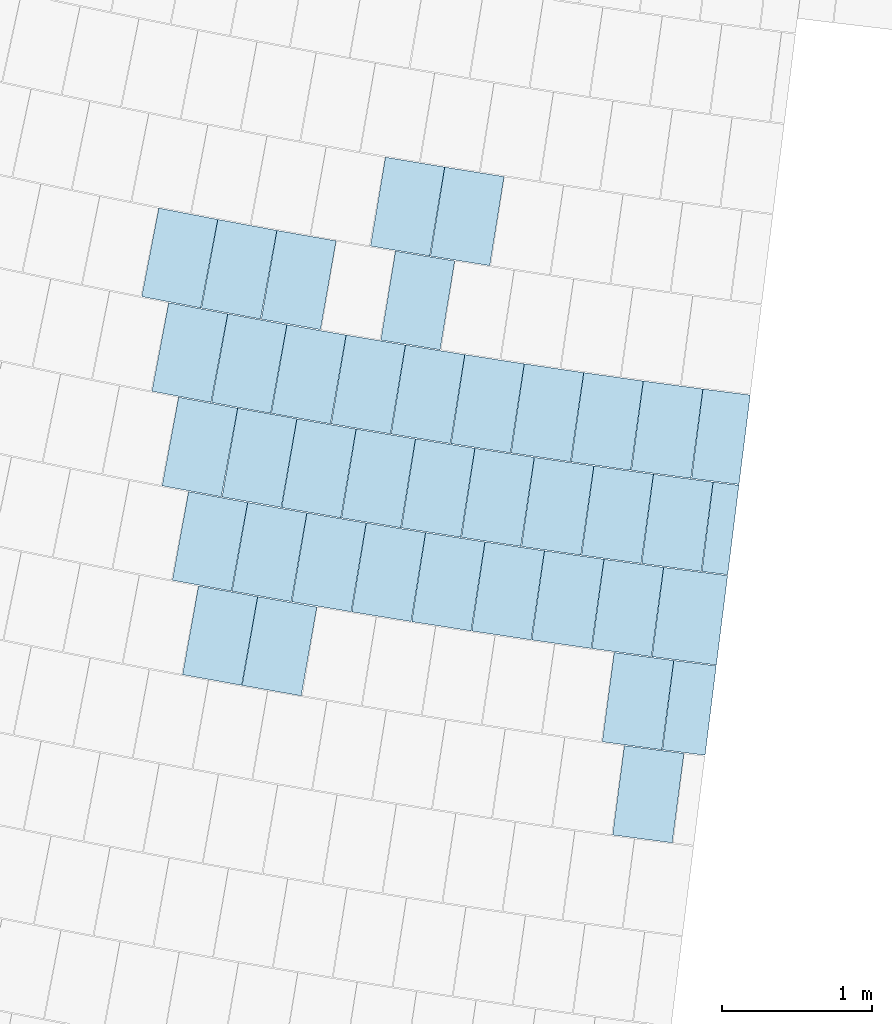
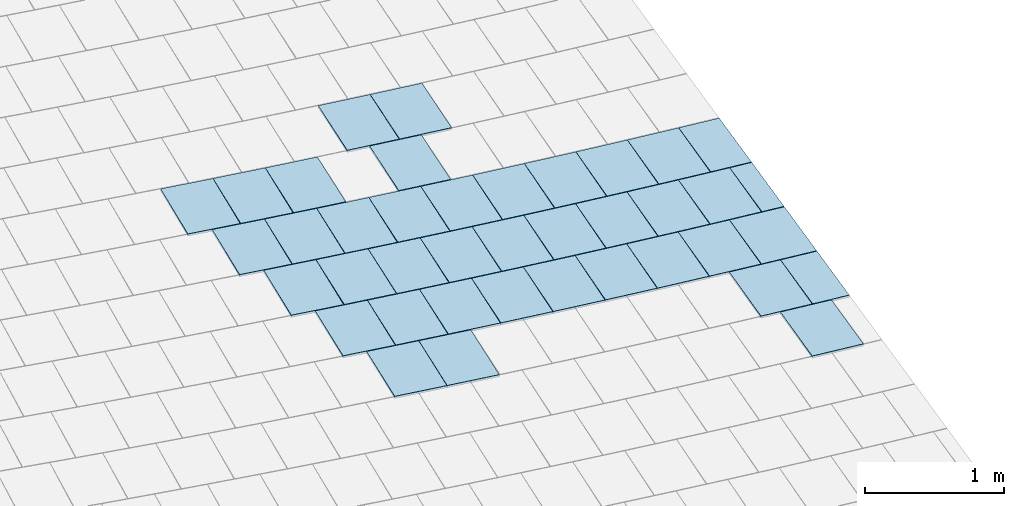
# One storey, part 34 of 438: 40 slabs.
"""IFC2X3 building model written with IfcOpenShell, lengths in millimetres."""

from ifc_helpers import new_model, entity, si_unit, converted_unit, derived_unit, direction, frame, frame_2d, origin, origin_2d_with_axis, place, context, subcontext, project, spatial, polyline, rectangle, outline, extrude, material, layer, layer_set, layer_usage, type_object, element, save


model = new_model("IFC2X3")

# Units and contexts
model_context = context("Model", 3, precision=0.01, world=origin(), true_north=direction((6.123031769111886e-17, 1.0)))
body_context = subcontext(model_context, "Body", "Model", "MODEL_VIEW")
ifc_project = project(units=[si_unit("LENGTHUNIT", "METRE", prefix="MILLI"), si_unit("AREAUNIT", "SQUARE_METRE"), si_unit("VOLUMEUNIT", "CUBIC_METRE"), converted_unit("PLANEANGLEUNIT", "DEGREE", entity("IfcRatioMeasure", 0.017453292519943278), si_unit("PLANEANGLEUNIT", "RADIAN"), dimensions=[0, 0, 0, 0, 0, 0, 0]), si_unit("MASSUNIT", "GRAM", prefix="KILO"), derived_unit("MASSDENSITYUNIT", [(si_unit("MASSUNIT", "GRAM", prefix="KILO"), 1), (si_unit("LENGTHUNIT", "METRE"), -3)]), derived_unit("MOMENTOFINERTIAUNIT", [(si_unit("LENGTHUNIT", "METRE"), 4)]), si_unit("TIMEUNIT", "SECOND"), si_unit("FREQUENCYUNIT", "HERTZ"), si_unit("THERMODYNAMICTEMPERATUREUNIT", "DEGREE_CELSIUS"), derived_unit("THERMALTRANSMITTANCEUNIT", [(si_unit("MASSUNIT", "GRAM", prefix="KILO"), 1), (si_unit("THERMODYNAMICTEMPERATUREUNIT", "KELVIN"), -1), (si_unit("TIMEUNIT", "SECOND"), -3)]), derived_unit("THERMALCONDUCTANCEUNIT", [(si_unit("MASSUNIT", "GRAM", prefix="KILO"), 1), (si_unit("LENGTHUNIT", "METRE"), 1), (si_unit("THERMODYNAMICTEMPERATUREUNIT", "KELVIN"), -1), (si_unit("TIMEUNIT", "SECOND"), -3)]), derived_unit("VOLUMETRICFLOWRATEUNIT", [(si_unit("LENGTHUNIT", "METRE"), 3), (si_unit("TIMEUNIT", "SECOND"), -1)]), derived_unit("MASSFLOWRATEUNIT", [(si_unit("MASSUNIT", "GRAM", prefix="KILO"), 1), (si_unit("TIMEUNIT", "SECOND"), -1)]), derived_unit("ROTATIONALFREQUENCYUNIT", [(si_unit("TIMEUNIT", "SECOND"), -1)]), si_unit("ELECTRICCURRENTUNIT", "AMPERE"), si_unit("ELECTRICVOLTAGEUNIT", "VOLT"), si_unit("POWERUNIT", "WATT"), converted_unit("FORCEUNIT", "KIP", entity("IfcRatioMeasure", 2.088543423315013e-05), si_unit("FORCEUNIT", "NEWTON"), dimensions=[1, 1, -2, 0, 0, 0, 0]), si_unit("ILLUMINANCEUNIT", "LUX"), si_unit("LUMINOUSFLUXUNIT", "LUMEN"), si_unit("LUMINOUSINTENSITYUNIT", "CANDELA"), derived_unit("USERDEFINED", [(si_unit("MASSUNIT", "GRAM", prefix="KILO"), -1), (si_unit("LENGTHUNIT", "METRE"), -2), (si_unit("TIMEUNIT", "SECOND"), 3), (si_unit("LUMINOUSFLUXUNIT", "LUMEN"), 1)]), derived_unit("USERDEFINED", [(si_unit("MASSUNIT", "GRAM", prefix="KILO"), 1), (si_unit("LENGTHUNIT", "METRE"), 3), (si_unit("TIMEUNIT", "SECOND"), -3), (si_unit("ELECTRICCURRENTUNIT", "AMPERE"), -2)]), derived_unit("USERDEFINED", [(si_unit("LENGTHUNIT", "METRE"), 2), (si_unit("TIMEUNIT", "SECOND"), -2)]), derived_unit("SOUNDPOWERUNIT", [(si_unit("MASSUNIT", "GRAM", prefix="KILO"), 1), (si_unit("LENGTHUNIT", "METRE"), 2), (si_unit("TIMEUNIT", "SECOND"), -3)]), derived_unit("SOUNDPRESSUREUNIT", [(si_unit("MASSUNIT", "GRAM", prefix="KILO"), 1), (si_unit("LENGTHUNIT", "METRE"), -1), (si_unit("TIMEUNIT", "SECOND"), -2)]), derived_unit("LINEARVELOCITYUNIT", [(si_unit("LENGTHUNIT", "METRE"), 1), (si_unit("TIMEUNIT", "SECOND"), -1)]), si_unit("PRESSUREUNIT", "PASCAL"), derived_unit("USERDEFINED", [(si_unit("LENGTHUNIT", "METRE"), -2), (si_unit("MASSUNIT", "GRAM", prefix="KILO"), 1), (si_unit("TIMEUNIT", "SECOND"), -2)]), derived_unit("LINEARFORCEUNIT", [(si_unit("MASSUNIT", "GRAM", prefix="KILO"), 1), (si_unit("LENGTHUNIT", "METRE"), 1), (si_unit("TIMEUNIT", "SECOND"), -2), (si_unit("LENGTHUNIT", "METRE"), -1)]), derived_unit("PLANARFORCEUNIT", [(si_unit("MASSUNIT", "GRAM", prefix="KILO"), 1), (si_unit("LENGTHUNIT", "METRE"), 1), (si_unit("TIMEUNIT", "SECOND"), -2), (si_unit("LENGTHUNIT", "METRE"), -2)]), derived_unit("SPECIFICHEATCAPACITYUNIT", [(si_unit("LENGTHUNIT", "METRE"), 2), (si_unit("TIMEUNIT", "SECOND"), -2), (si_unit("THERMODYNAMICTEMPERATUREUNIT", "KELVIN"), -1)]), derived_unit("VAPORPERMEABILITYUNIT", [(si_unit("TIMEUNIT", "SECOND"), 1), (si_unit("LENGTHUNIT", "METRE"), -1)]), derived_unit("DYNAMICVISCOSITYUNIT", [(si_unit("MASSUNIT", "GRAM", prefix="KILO"), 1), (si_unit("LENGTHUNIT", "METRE"), -1), (si_unit("TIMEUNIT", "SECOND"), -1)]), derived_unit("THERMALEXPANSIONCOEFFICIENTUNIT", [(si_unit("THERMODYNAMICTEMPERATUREUNIT", "KELVIN"), -1)])], contexts=[model_context])

# Site, building, storey
site_placement = place(None, frame((0.0, 0.0, 0.0), z_axis=(0.0, 0.0, 1.0), x_axis=(0.8191520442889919, 0.5735764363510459, 0.0)))
site = spatial("IfcSite", under=ifc_project, at=site_placement, Name="Default", CompositionType="ELEMENT")
building_placement = place(site_placement, origin())
building = spatial("IfcBuilding", under=site, at=building_placement, CompositionType="ELEMENT")
storey_placement = place(building_placement, origin())
storey = spatial("IfcBuildingStorey", under=building, at=storey_placement, Name="PLAN", CompositionType="ELEMENT", Elevation=0.0)

# Slabs
ifc_material = material(Name="Paint-01")
ifc_layer = layer(ifc_material, 20.00000000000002)
ifc_layer_set = layer_set([ifc_layer], Name="Floor:Slab-179:1000")
ifc_layer_usage = layer_usage(ifc_layer_set, "AXIS3", "POSITIVE", 0.0)
slab_type = type_object("IfcSlabType", Name="Floor:Slab-179:1000", PredefinedType="FLOOR", material=ifc_layer_set)
slab_1_placement = place(storey_placement, origin())
element("IfcSlab", 1, at=slab_1_placement, inside=storey, type_object=slab_type, material=ifc_layer_usage, Name="Floor:Slab-179:1000", ObjectType="Floor:Slab-179:1000", PredefinedType="FLOOR", context=body_context, shape_type="SweptSolid", body=[
    extrude(outline(polyline([(-299.99999893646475, -200.00000294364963), (300.00000106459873, -200.00000294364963), (299.99999893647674, 200.0000029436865), (-300.00000106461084, 200.0000029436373), (-299.99999893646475, -200.00000294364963)])), frame((-81538.250148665, -109884.09581013, 520.0), z_axis=(0.0, 0.0, -1.0), x_axis=(-0.7009546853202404, -0.7132058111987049, 0.0)), (0.0, 0.0, 1.0), 20.000000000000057),
])
slab_2_placement = place(storey_placement, origin())
element("IfcSlab", 2, at=slab_2_placement, inside=storey, type_object=slab_type, material=ifc_layer_usage, Name="Floor:Slab-179:1000", ObjectType="Floor:Slab-179:1000", PredefinedType="FLOOR", context=body_context, shape_type="SweptSolid", body=[
    extrude(outline(polyline([(-299.9999989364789, -200.0000029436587), (300.00000106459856, -200.00000294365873), (299.9999989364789, 200.0000029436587), (-300.0000010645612, 200.00000294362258), (-299.9999989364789, -200.0000029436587)])), frame((-81250.54471016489, -110164.93193581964, 520.0), z_axis=(0.0, 0.0, -1.0), x_axis=(-0.6960617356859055, -0.7179819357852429, 0.0)), (0.0, 0.0, 1.0), 20.000000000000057),
])
slab_3_placement = place(storey_placement, origin())
element("IfcSlab", 3, at=slab_3_placement, inside=storey, type_object=slab_type, material=ifc_layer_usage, Name="Floor:Slab-179:1000", ObjectType="Floor:Slab-179:1000", PredefinedType="FLOOR", context=body_context, shape_type="SweptSolid", body=[
    extrude(outline(polyline([(-299.19360939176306, -215.06999668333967), (300.8106276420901, -215.06999668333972), (299.18936976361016, 216.19777221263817), (-300.80638801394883, 213.94222115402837), (-299.19360939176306, -215.06999668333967)])), frame((-81562.68992177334, -113192.52287062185, 520.0), z_axis=(0.0, 0.0, -1.0), x_axis=(-0.6710449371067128, -0.741416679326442, 0.0)), (0.0, 0.0, 1.0), 19.99999999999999),
])
slab_4_placement = place(storey_placement, origin())
element("IfcSlab", 4, at=slab_4_placement, inside=storey, type_object=slab_type, material=ifc_layer_usage, Name="Floor:Slab-179:1000", ObjectType="Floor:Slab-179:1000", PredefinedType="FLOOR", context=body_context, shape_type="SweptSolid", body=[
    extrude(outline(polyline([(-299.9999976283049, -200.00000294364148), (300.0, -200.00000294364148), (299.9999976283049, 200.00000294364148), (-300.0, 200.00000294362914), (-299.9999976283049, -200.00000294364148)])), frame((-82695.0179098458, -109582.80870616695, 520.0), z_axis=(0.0, 0.0, -1.0), x_axis=(-0.7132884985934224, -0.7008705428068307, 0.0)), (0.0, 0.0, 1.0), 20.000000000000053),
])
slab_5_placement = place(storey_placement, origin())
element("IfcSlab", 5, at=slab_5_placement, inside=storey, type_object=slab_type, material=ifc_layer_usage, Name="Floor:Slab-179:1000", ObjectType="Floor:Slab-179:1000", PredefinedType="FLOOR", context=body_context, shape_type="SweptSolid", body=[
    extrude(rectangle(XDim=599.9987813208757, YDim=399.9991951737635, at=frame_2d((-1.2278178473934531e-11, 1.226396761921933e-11), x_axis=(1.0, 0.0))), frame((-82411.56778162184, -109868.7579204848, 520.0), z_axis=(0.0, 0.0, -1.0), x_axis=(-0.7071067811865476, -0.7071067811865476, 0.0)), (0.0, 0.0, 1.0), 19.999999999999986),
])
slab_6_placement = place(storey_placement, origin())
element("IfcSlab", 6, at=slab_6_placement, inside=storey, type_object=slab_type, material=ifc_layer_usage, Name="Floor:Slab-179:1000", ObjectType="Floor:Slab-179:1000", PredefinedType="FLOOR", context=body_context, shape_type="SweptSolid", body=[
    extrude(outline(polyline([(-299.99999762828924, -200.00000294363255), (300.0, -200.00000294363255), (299.9999976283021, 200.00000294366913), (-300.0, 200.00000294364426), (-299.99999762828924, -200.00000294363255)])), frame((-82975.815529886, -109295.09495813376, 520.0), z_axis=(0.0, 0.0, -1.0), x_axis=(-0.718015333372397, -0.6960272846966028, 0.0)), (0.0, 0.0, 1.0), 19.99999999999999),
])
slab_7_placement = place(storey_placement, origin())
element("IfcSlab", 7, at=slab_7_placement, inside=storey, type_object=slab_type, material=ifc_layer_usage, Name="Floor:Slab-179:1000", ObjectType="Floor:Slab-179:1000", PredefinedType="FLOOR", context=body_context, shape_type="SweptSolid", body=[
    extrude(outline(polyline([(-299.9999976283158, -200.00000294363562), (300.0, -200.0000029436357), (299.9999976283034, 200.00000294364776), (-300.0, 200.00000294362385), (-299.9999976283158, -200.00000294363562)])), frame((-81841.03283245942, -110434.45629226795, 520.0), z_axis=(0.0, 0.0, -1.0), x_axis=(-0.6989128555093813, -0.7152068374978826, 0.0)), (0.0, 0.0, 1.0), 19.99999999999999),
])
slab_8_placement = place(storey_placement, origin())
element("IfcSlab", 8, at=slab_8_placement, inside=storey, type_object=slab_type, material=ifc_layer_usage, Name="Floor:Slab-179:1000", ObjectType="Floor:Slab-179:1000", PredefinedType="FLOOR", context=body_context, shape_type="SweptSolid", body=[
    extrude(outline(polyline([(-299.9999976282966, -200.00000294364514), (300.0, -200.00000294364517), (299.9999976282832, 200.0000029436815), (-300.0, 200.0000029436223), (-299.9999976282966, -200.00000294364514)])), frame((-82164.27204063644, -112636.7680231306, 520.0), z_axis=(0.0, 0.0, -1.0), x_axis=(-0.6834720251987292, -0.7299767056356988, 0.0)), (0.0, 0.0, 1.0), 19.999999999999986),
])
slab_9_placement = place(storey_placement, origin())
element("IfcSlab", 9, at=slab_9_placement, inside=storey, type_object=slab_type, material=ifc_layer_usage, Name="Floor:Slab-179:1000", ObjectType="Floor:Slab-179:1000", PredefinedType="FLOOR", context=body_context, shape_type="SweptSolid", body=[
    extrude(outline(polyline([(-299.99999762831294, -200.00000294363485), (300.0, -200.00000294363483), (299.9999976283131, 200.00000294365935), (-300.0, 200.0000029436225), (-299.99999762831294, -200.00000294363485)])), frame((-82999.90648755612, -110135.34332714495, 520.0), z_axis=(0.0, 0.0, -1.0), x_axis=(-0.7111780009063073, -0.7030119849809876, 0.0)), (0.0, 0.0, 1.0), 20.000000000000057),
])
slab_10_placement = place(storey_placement, origin())
element("IfcSlab", 10, at=slab_10_placement, inside=storey, type_object=slab_type, material=ifc_layer_usage, Name="Floor:Slab-179:1000", ObjectType="Floor:Slab-179:1000", PredefinedType="FLOOR", context=body_context, shape_type="SweptSolid", body=[
    extrude(rectangle(XDim=599.9997408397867, YDim=399.99983485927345, at=frame_2d((6.139089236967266e-12, -6.124878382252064e-12), x_axis=(1.0, 0.0))), frame((-82716.66133328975, -110420.22857468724, 520.0), z_axis=(0.0, 0.0, -1.0), x_axis=(-0.707106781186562, -0.7071067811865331, 0.0)), (0.0, 0.0, 1.0), 19.99999999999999),
])
slab_11_placement = place(storey_placement, origin())
element("IfcSlab", 11, at=slab_11_placement, inside=storey, type_object=slab_type, material=ifc_layer_usage, Name="Floor:Slab-179:1000", ObjectType="Floor:Slab-179:1000", PredefinedType="FLOOR", context=body_context, shape_type="SweptSolid", body=[
    extrude(outline(polyline([(-299.99999762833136, -200.00000294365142), (300.0, -200.00000294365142), (299.9999976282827, 200.00000294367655), (-300.0, 200.0000029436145), (-299.99999762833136, -200.00000294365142)])), frame((-83281.5633483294, -109848.49944239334, 520.0), z_axis=(0.0, 0.0, -1.0), x_axis=(-0.7158714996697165, -0.6982320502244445, 0.0)), (0.0, 0.0, 1.0), 20.000000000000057),
])
slab_12_placement = place(storey_placement, origin())
element("IfcSlab", 12, at=slab_12_placement, inside=storey, type_object=slab_type, material=ifc_layer_usage, Name="Floor:Slab-179:1000", ObjectType="Floor:Slab-179:1000", PredefinedType="FLOOR", context=body_context, shape_type="SweptSolid", body=[
    extrude(outline(polyline([(-299.9999976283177, -200.0000029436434), (300.0, -200.0000029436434), (299.9999976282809, 200.00000294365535), (-300.0, 200.00000294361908), (-299.9999976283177, -200.0000029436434)])), frame((-82430.85977552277, -110703.33856723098, 520.0), z_axis=(0.0, 0.0, -1.0), x_axis=(-0.7016954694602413, -0.7124769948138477, 0.0)), (0.0, 0.0, 1.0), 20.000000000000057),
])
slab_13_placement = place(storey_placement, origin())
element("IfcSlab", 13, at=slab_13_placement, inside=storey, type_object=slab_type, material=ifc_layer_usage, Name="Floor:Slab-179:1000", ObjectType="Floor:Slab-179:1000", PredefinedType="FLOOR", context=body_context, shape_type="SweptSolid", body=[
    extrude(outline(polyline([(-299.9999976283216, -200.0000029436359), (300.0, -200.00000294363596), (299.99999762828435, 200.00000294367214), (-300.0, 200.00000294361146), (-299.9999976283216, -200.0000029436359)])), frame((-82143.49546120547, -110984.464432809, 520.0), z_axis=(0.0, 0.0, -1.0), x_axis=(-0.6969068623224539, -0.7171616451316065, 0.0)), (0.0, 0.0, 1.0), 19.999999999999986),
])
slab_14_placement = place(storey_placement, origin())
element("IfcSlab", 14, at=slab_14_placement, inside=storey, type_object=slab_type, material=ifc_layer_usage, Name="Floor:Slab-179:1000", ObjectType="Floor:Slab-179:1000", PredefinedType="FLOOR", context=body_context, shape_type="SweptSolid", body=[
    extrude(outline(polyline([(-299.99999762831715, -200.0000029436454), (300.0, -200.00000294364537), (299.99999762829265, 200.00000294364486), (-300.0, 200.00000294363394), (-299.99999762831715, -200.0000029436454)])), frame((-81854.25434103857, -111263.65894537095, 520.0), z_axis=(0.0, 0.0, -1.0), x_axis=(-0.6920869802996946, -0.7218141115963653, 0.0)), (0.0, 0.0, 1.0), 20.000000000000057),
])
slab_15_placement = place(storey_placement, origin())
element("IfcSlab", 15, at=slab_15_placement, inside=storey, type_object=slab_type, material=ifc_layer_usage, Name="Floor:Slab-179:1000", ObjectType="Floor:Slab-179:1000", PredefinedType="FLOOR", context=body_context, shape_type="SweptSolid", body=[
    extrude(outline(polyline([(-299.9999976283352, -200.00000294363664), (300.0, -200.00000294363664), (299.99999762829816, 200.00000294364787), (-300.0, 200.00000294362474), (-299.9999976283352, -200.00000294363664)])), frame((-81563.1493952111, -111540.90957558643, 520.0), z_axis=(0.0, 0.0, -1.0), x_axis=(-0.6872360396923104, -0.7264341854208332, 0.0)), (0.0, 0.0, 1.0), 20.000000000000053),
])
slab_16_placement = place(storey_placement, origin())
element("IfcSlab", 16, at=slab_16_placement, inside=storey, type_object=slab_type, material=ifc_layer_usage, Name="Floor:Slab-179:1000", ObjectType="Floor:Slab-179:1000", PredefinedType="FLOOR", context=body_context, shape_type="SweptSolid", body=[
    extrude(outline(polyline([(-299.99999762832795, -200.00000294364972), (300.0, -200.00000294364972), (299.99999762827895, 200.000002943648), (-300.0, 200.0000029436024), (-299.99999762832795, -200.00000294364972)])), frame((-81270.19368755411, -111816.2038813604, 520.0), z_axis=(0.0, 0.0, -1.0), x_axis=(-0.68235425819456, -0.7310216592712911, 0.0)), (0.0, 0.0, 1.0), 19.99999999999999),
])
slab_17_placement = place(storey_placement, origin())
element("IfcSlab", 17, at=slab_17_placement, inside=storey, type_object=slab_type, material=ifc_layer_usage, Name="Floor:Slab-179:1000", ObjectType="Floor:Slab-179:1000", PredefinedType="FLOOR", context=body_context, shape_type="SweptSolid", body=[
    extrude(outline(polyline([(-299.99999762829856, -200.00000294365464), (300.0, -200.00000294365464), (299.9999976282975, 200.00000294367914), (-300.0, 200.00000294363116), (-299.99999762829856, -200.00000294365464)])), frame((-80975.40036495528, -112089.52950839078, 520.0), z_axis=(0.0, 0.0, -1.0), x_axis=(-0.6774418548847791, -0.7355763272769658, 0.0)), (0.0, 0.0, 1.0), 20.000000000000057),
])
slab_18_placement = place(storey_placement, origin())
element("IfcSlab", 18, at=slab_18_placement, inside=storey, type_object=slab_type, material=ifc_layer_usage, Name="Floor:Slab-179:1000", ObjectType="Floor:Slab-179:1000", PredefinedType="FLOOR", context=body_context, shape_type="SweptSolid", body=[
    extrude(outline(polyline([(-299.68865380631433, -158.89983056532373), (300.3124996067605, -158.8998305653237), (299.6874977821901, 159.4887326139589), (-300.31134358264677, 158.3109285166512), (-299.68865380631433, -158.89983056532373)])), frame((-80709.20058479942, -112333.23456956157, 520.0), z_axis=(0.0, 0.0, -1.0), x_axis=(-0.6710449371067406, -0.7414166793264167, 0.0)), (0.0, 0.0, 1.0), 20.000000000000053),
])
slab_19_placement = place(storey_placement, origin())
element("IfcSlab", 19, at=slab_19_placement, inside=storey, type_object=slab_type, material=ifc_layer_usage, Name="Floor:Slab-179:1000", ObjectType="Floor:Slab-179:1000", PredefinedType="FLOOR", context=body_context, shape_type="SweptSolid", body=[
    extrude(outline(polyline([(-299.9999976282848, -200.00000294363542), (300.0, -200.0000029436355), (299.99999762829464, 200.00000294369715), (-300.0, 200.0000029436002), (-299.9999976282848, -200.00000294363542)])), frame((-81869.94466708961, -112910.53686302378, 520.0), z_axis=(0.0, 0.0, -1.0), x_axis=(-0.678664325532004, -0.7344485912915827, 0.0)), (0.0, 0.0, 1.0), 20.000000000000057),
])
slab_20_placement = place(storey_placement, origin())
element("IfcSlab", 20, at=slab_20_placement, inside=storey, type_object=slab_type, material=ifc_layer_usage, Name="Floor:Slab-179:1000", ObjectType="Floor:Slab-179:1000", PredefinedType="FLOOR", context=body_context, shape_type="SweptSolid", body=[
    extrude(outline(polyline([(-299.9999976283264, -200.00000294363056), (300.0, -200.00000294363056), (299.99999762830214, 200.0000029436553), (-300.0, 200.00000294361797), (-299.9999976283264, -200.00000294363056)])), frame((-83586.92594497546, -110401.50239592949, 520.0), z_axis=(0.0, 0.0, -1.0), x_axis=(-0.7137641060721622, -0.7003861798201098, 0.0)), (0.0, 0.0, 1.0), 20.000000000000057),
])
slab_21_placement = place(storey_placement, origin())
element("IfcSlab", 21, at=slab_21_placement, inside=storey, type_object=slab_type, material=ifc_layer_usage, Name="Floor:Slab-179:1000", ObjectType="Floor:Slab-179:1000", PredefinedType="FLOOR", context=body_context, shape_type="SweptSolid", body=[
    extrude(rectangle(XDim=599.9975982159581, YDim=399.998406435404, at=origin_2d_with_axis()), frame((-83303.42986770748, -110687.69134351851, 520.0), z_axis=(0.0, 0.0, -1.0), x_axis=(-0.7071067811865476, -0.7071067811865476, 0.0)), (0.0, 0.0, 1.0), 19.999999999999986),
])
slab_22_placement = place(storey_placement, origin())
element("IfcSlab", 22, at=slab_22_placement, inside=storey, type_object=slab_type, material=ifc_layer_usage, Name="Floor:Slab-179:1000", ObjectType="Floor:Slab-179:1000", PredefinedType="FLOOR", context=body_context, shape_type="SweptSolid", body=[
    extrude(outline(polyline([(-299.9999976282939, -200.00000294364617), (300.0, -200.0000029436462), (299.99999762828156, 200.00000294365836), (-300.0, 200.00000294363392), (-299.9999976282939, -200.00000294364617)])), frame((-83020.0430407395, -110971.6006212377, 520.0), z_axis=(0.0, 0.0, -1.0), x_axis=(-0.7044119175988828, -0.709791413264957, 0.0)), (0.0, 0.0, 1.0), 20.000000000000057),
])
slab_23_placement = place(storey_placement, origin())
element("IfcSlab", 23, at=slab_23_placement, inside=storey, type_object=slab_type, material=ifc_layer_usage, Name="Floor:Slab-179:1000", ObjectType="Floor:Slab-179:1000", PredefinedType="FLOOR", context=body_context, shape_type="SweptSolid", body=[
    extrude(outline(polyline([(-299.99999762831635, -200.00000294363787), (300.0, -200.00000294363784), (299.99999762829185, 200.00000294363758), (-300.0, 200.00000294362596), (-299.99999762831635, -200.00000294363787)])), frame((-82733.77849196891, -111253.81762689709, 520.0), z_axis=(0.0, 0.0, -1.0), x_axis=(-0.6996892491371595, -0.7144473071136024, 0.0)), (0.0, 0.0, 1.0), 19.99999999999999),
])
slab_24_placement = place(storey_placement, origin())
element("IfcSlab", 24, at=slab_24_placement, inside=storey, type_object=slab_type, material=ifc_layer_usage, Name="Floor:Slab-179:1000", ObjectType="Floor:Slab-179:1000", PredefinedType="FLOOR", context=body_context, shape_type="SweptSolid", body=[
    extrude(outline(polyline([(-299.99999762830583, -200.00000294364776), (300.0, -200.0000029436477), (299.99999762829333, 200.00000294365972), (-300.0, 200.0000029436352), (-299.99999762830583, -200.00000294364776)])), frame((-82155.66615149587, -111812.52536391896, 520.0), z_axis=(0.0, 0.0, -1.0), x_axis=(-0.6901518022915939, -0.7236646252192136, 0.0)), (0.0, 0.0, 1.0), 19.999999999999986),
])
slab_25_placement = place(storey_placement, origin())
element("IfcSlab", 25, at=slab_25_placement, inside=storey, type_object=slab_type, material=ifc_layer_usage, Name="Floor:Slab-179:1000", ObjectType="Floor:Slab-179:1000", PredefinedType="FLOOR", context=body_context, shape_type="SweptSolid", body=[
    extrude(outline(polyline([(-299.9999976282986, -200.00000294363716), (300.0, -200.00000294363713), (299.99999762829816, 200.00000294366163), (-300.0, 200.00000294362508), (-299.9999976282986, -200.00000294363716)])), frame((-82445.64863814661, -111534.12998392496, 520.0), z_axis=(0.0, 0.0, -1.0), x_axis=(-0.6949358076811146, -0.7190717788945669, 0.0)), (0.0, 0.0, 1.0), 20.000000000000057),
])
slab_26_placement = place(storey_placement, origin())
element("IfcSlab", 26, at=slab_26_placement, inside=storey, type_object=slab_type, material=ifc_layer_usage, Name="Floor:Slab-179:1000", ObjectType="Floor:Slab-179:1000", PredefinedType="FLOOR", context=body_context, shape_type="SweptSolid", body=[
    extrude(outline(polyline([(-299.99999762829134, -200.00000294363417), (300.0, -200.0000029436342), (299.99999762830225, 200.00000294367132), (-300.0, 200.00000294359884), (-299.99999762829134, -200.00000294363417)])), frame((-81570.19437544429, -112363.51630128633, 520.0), z_axis=(0.0, 0.0, -1.0), x_axis=(-0.6804929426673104, -0.7327546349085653, 0.0)), (0.0, 0.0, 1.0), 19.999999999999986),
])
slab_27_placement = place(storey_placement, origin())
element("IfcSlab", 27, at=slab_27_placement, inside=storey, type_object=slab_type, material=ifc_layer_usage, Name="Floor:Slab-179:1000", ObjectType="Floor:Slab-179:1000", PredefinedType="FLOOR", context=body_context, shape_type="SweptSolid", body=[
    extrude(outline(polyline([(-299.9999976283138, -200.00000294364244), (300.0, -200.00000294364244), (299.99999762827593, 200.00000294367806), (-300.0, 200.0000029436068), (-299.9999976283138, -200.00000294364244)])), frame((-81863.84378572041, -112088.99152278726, 520.0), z_axis=(0.0, 0.0, -1.0), x_axis=(-0.685337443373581, -0.7282256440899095, 0.0)), (0.0, 0.0, 1.0), 20.000000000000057),
])
slab_28_placement = place(storey_placement, origin())
element("IfcSlab", 28, at=slab_28_placement, inside=storey, type_object=slab_type, material=ifc_layer_usage, Name="Floor:Slab-179:1000", ObjectType="Floor:Slab-179:1000", PredefinedType="FLOOR", context=body_context, shape_type="SweptSolid", body=[
    extrude(outline(polyline([(-300.03858257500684, -86.48983466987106), (299.96147442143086, -86.48983466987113), (300.03852296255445, 86.35610381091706), (-299.9614148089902, 86.62356552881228), (-300.03858257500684, -86.48983466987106)])), frame((-81061.65843243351, -112830.56061203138, 520.0), z_axis=(0.0, 0.0, -1.0), x_axis=(-0.6710449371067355, -0.7414166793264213, 0.0)), (0.0, 0.0, 1.0), 20.000000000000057),
])
slab_29_placement = place(storey_placement, origin())
element("IfcSlab", 29, at=slab_29_placement, inside=storey, type_object=slab_type, material=ifc_layer_usage, Name="Floor:Slab-179:1000", ObjectType="Floor:Slab-179:1000", PredefinedType="FLOOR", context=body_context, shape_type="SweptSolid", body=[
    extrude(outline(polyline([(-299.99999762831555, -200.00000294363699), (300.0, -200.000002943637), (299.9999976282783, 200.00000294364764), (-300.0, 200.00000294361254), (-299.99999762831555, -200.00000294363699)])), frame((-81274.73083564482, -112636.08762555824, 520.0), z_axis=(0.0, 0.0, -1.0), x_axis=(-0.6756185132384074, -0.7372513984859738, 0.0)), (0.0, 0.0, 1.0), 19.999999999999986),
])
slab_30_placement = place(storey_placement, origin())
element("IfcSlab", 30, at=slab_30_placement, inside=storey, type_object=slab_type, material=ifc_layer_usage, Name="Floor:Slab-179:1000", ObjectType="Floor:Slab-179:1000", PredefinedType="FLOOR", context=body_context, shape_type="SweptSolid", body=[
    extrude(outline(polyline([(-299.99999762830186, -200.00000294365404), (300.0, -200.00000294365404), (299.99999762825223, 200.00000294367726), (-300.0, 200.00000294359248), (-299.99999762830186, -200.00000294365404)])), frame((-82456.7955260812, -112361.07255530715, 520.0), z_axis=(0.0, 0.0, -1.0), x_axis=(-0.6882502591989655, -0.7254733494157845, 0.0)), (0.0, 0.0, 1.0), 20.000000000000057),
])
slab_31_placement = place(storey_placement, origin())
element("IfcSlab", 31, at=slab_31_placement, inside=storey, type_object=slab_type, material=ifc_layer_usage, Name="Floor:Slab-179:1000", ObjectType="Floor:Slab-179:1000", PredefinedType="FLOOR", context=body_context, shape_type="SweptSolid", body=[
    extrude(rectangle(XDim=599.9999963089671, YDim=400.00000517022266, at=origin_2d_with_axis()), frame((-83608.62071115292, -111239.25911907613, 520.0), z_axis=(0.0, 0.0, -1.0), x_axis=(-0.7071067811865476, -0.7071067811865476, 0.0)), (0.0, 0.0, 1.0), 20.000000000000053),
])
slab_32_placement = place(storey_placement, origin())
element("IfcSlab", 32, at=slab_32_placement, inside=storey, type_object=slab_type, material=ifc_layer_usage, Name="Floor:Slab-179:1000", ObjectType="Floor:Slab-179:1000", PredefinedType="FLOOR", context=body_context, shape_type="SweptSolid", body=[
    extrude(outline(polyline([(-299.9999976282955, -200.0000029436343), (300.0, -200.00000294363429), (299.9999976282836, 200.00000294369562), (-300.0, 200.00000294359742), (-299.9999976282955, -200.0000029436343)])), frame((-83891.9159921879, -110954.11467541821, 520.0), z_axis=(0.0, 0.0, -1.0), x_axis=(-0.7116922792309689, -0.7024913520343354, 0.0)), (0.0, 0.0, 1.0), 20.000000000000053),
])
slab_33_placement = place(storey_placement, origin())
element("IfcSlab", 33, at=slab_33_placement, inside=storey, type_object=slab_type, material=ifc_layer_usage, Name="Floor:Slab-179:1000", ObjectType="Floor:Slab-179:1000", PredefinedType="FLOOR", context=body_context, shape_type="SweptSolid", body=[
    extrude(outline(polyline([(-299.99999762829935, -200.00000294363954), (300.0, -200.0000029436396), (299.99999762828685, 200.00000294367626), (-300.0, 200.00000294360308), (-299.99999762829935, -200.00000294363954)])), frame((-83323.4169339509, -111522.54565358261, 520.0), z_axis=(0.0, 0.0, -1.0), x_axis=(-0.7024061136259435, -0.7117764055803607, 0.0)), (0.0, 0.0, 1.0), 19.99999999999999),
])
slab_34_placement = place(storey_placement, origin())
element("IfcSlab", 34, at=slab_34_placement, inside=storey, type_object=slab_type, material=ifc_layer_usage, Name="Floor:Slab-179:1000", ObjectType="Floor:Slab-179:1000", PredefinedType="FLOOR", context=body_context, shape_type="SweptSolid", body=[
    extrude(outline(polyline([(-299.9999976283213, -200.00000294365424), (300.0, -200.00000294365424), (299.9999976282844, 200.000002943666), (-300.0, 200.0000029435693), (-299.9999976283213, -200.00000294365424)])), frame((-83036.38046619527, -111803.94936125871, 520.0), z_axis=(0.0, 0.0, -1.0), x_axis=(-0.6977175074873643, -0.7163730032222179, 0.0)), (0.0, 0.0, 1.0), 20.000000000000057),
])
slab_35_placement = place(storey_placement, origin())
element("IfcSlab", 35, at=slab_35_placement, inside=storey, type_object=slab_type, material=ifc_layer_usage, Name="Floor:Slab-179:1000", ObjectType="Floor:Slab-179:1000", PredefinedType="FLOOR", context=body_context, shape_type="SweptSolid", body=[
    extrude(outline(polyline([(-299.99999762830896, -200.0000029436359), (300.0, -200.00000294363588), (299.999997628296, 200.00000294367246), (-300.0, 200.00000294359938), (-299.99999762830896, -200.0000029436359)])), frame((-82747.50251222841, -112083.46234526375, 520.0), z_axis=(0.0, 0.0, -1.0), x_axis=(-0.6929988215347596, -0.7209387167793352, 0.0)), (0.0, 0.0, 1.0), 20.000000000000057),
])
slab_36_placement = place(storey_placement, origin())
element("IfcSlab", 36, at=slab_36_placement, inside=storey, type_object=slab_type, material=ifc_layer_usage, Name="Floor:Slab-179:1000", ObjectType="Floor:Slab-179:1000", PredefinedType="FLOOR", context=body_context, shape_type="SweptSolid", body=[
    extrude(outline(polyline([(-299.99999762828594, -200.00000294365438), (300.0, -200.00000294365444), (299.99999762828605, 200.00000294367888), (-300.0, 200.00000294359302), (-299.99999762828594, -200.00000294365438)])), frame((-84196.5456204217, -111506.34675702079, 520.0), z_axis=(0.0, 0.0, -1.0), x_axis=(-0.7096551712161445, -0.7045491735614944, 0.0)), (0.0, 0.0, 1.0), 20.000000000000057),
])
slab_37_placement = place(storey_placement, origin())
element("IfcSlab", 37, at=slab_37_placement, inside=storey, type_object=slab_type, material=ifc_layer_usage, Name="Floor:Slab-179:1000", ObjectType="Floor:Slab-179:1000", PredefinedType="FLOOR", context=body_context, shape_type="SweptSolid", body=[
    extrude(rectangle(XDim=599.9974901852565, YDim=399.9983344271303, at=frame_2d((1.2249756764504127e-11, -1.2249756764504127e-11), x_axis=(1.0, 0.0))), frame((-83913.44961214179, -111790.46495588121, 520.0), z_axis=(0.0, 0.0, -1.0), x_axis=(-0.7071067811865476, -0.7071067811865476, 0.0)), (0.0, 0.0, 1.0), 19.999999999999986),
])
slab_38_placement = place(storey_placement, origin())
element("IfcSlab", 38, at=slab_38_placement, inside=storey, type_object=slab_type, material=ifc_layer_usage, Name="Floor:Slab-179:1000", ObjectType="Floor:Slab-179:1000", PredefinedType="FLOOR", context=body_context, shape_type="SweptSolid", body=[
    extrude(outline(polyline([(-299.99999762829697, -200.0000029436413), (300.0, -200.0000029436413), (299.9999976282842, 200.00000294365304), (-300.0, 200.0000029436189), (-299.99999762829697, -200.0000029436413)])), frame((-82169.45266878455, -113457.27358462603, 520.0), z_axis=(0.0, 0.0, -1.0), x_axis=(-0.676867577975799, -0.7361048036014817, 0.0)), (0.0, 0.0, 1.0), 20.000000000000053),
])
slab_39_placement = place(storey_placement, origin())
element("IfcSlab", 39, at=slab_39_placement, inside=storey, type_object=slab_type, material=ifc_layer_usage, Name="Floor:Slab-179:1000", ObjectType="Floor:Slab-179:1000", PredefinedType="FLOOR", context=body_context, shape_type="SweptSolid", body=[
    extrude(outline(polyline([(-299.803378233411, -142.66510249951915), (300.19719063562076, -142.66510249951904), (299.8028067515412, 143.07916014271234), (-300.1966191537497, 142.25104485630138), (-299.803378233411, -142.66510249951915)])), frame((-81915.14955684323, -113689.84328533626, 520.0), z_axis=(0.0, 0.0, -1.0), x_axis=(-0.6710449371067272, -0.741416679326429, 0.0)), (0.0, 0.0, 1.0), 20.000000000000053),
])
slab_40_placement = place(storey_placement, origin())
element("IfcSlab", 40, at=slab_40_placement, inside=storey, type_object=slab_type, material=ifc_layer_usage, Name="Floor:Slab-179:1000", ObjectType="Floor:Slab-179:1000", PredefinedType="FLOOR", context=body_context, shape_type="SweptSolid", body=[
    extrude(outline(polyline([(-299.9999976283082, -200.0000029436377), (300.0, -200.00000294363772), (299.9999976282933, 200.00000294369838), (-300.0, 200.00000294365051), (-299.9999976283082, -200.0000029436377)])), frame((-82468.72614467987, -114003.73419641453, 520.0), z_axis=(0.0, 0.0, -1.0), x_axis=(-0.6751018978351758, -0.7377244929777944, 0.0)), (0.0, 0.0, 1.0), 20.000000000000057),
])

save(model, "model.ifc")
